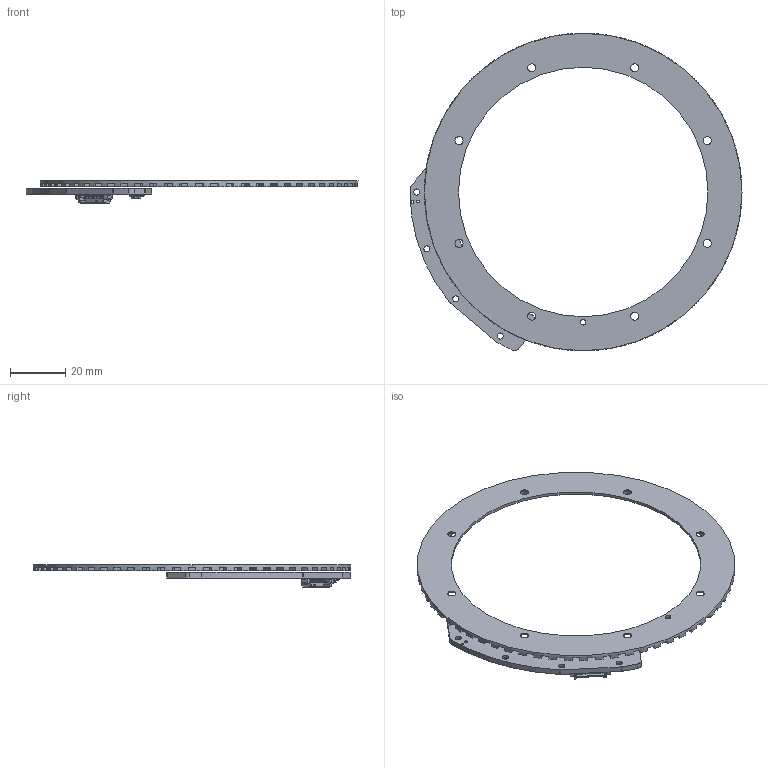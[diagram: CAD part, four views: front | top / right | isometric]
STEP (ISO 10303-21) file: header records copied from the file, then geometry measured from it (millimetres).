
FILE_DESCRIPTION((''),'2;1');
FILE_NAME('SAB115REV_1_8_ASM','2025-05-06T',('ol'),(''),'PRO/ENGINEER BY PARAMETRIC TECHNOLOGY CORPORATION, 2017170','PRO/ENGINEER BY PARAMETRIC TECHNOLOGY CORPORATION, 2017170','');
FILE_SCHEMA(('CONFIG_CONTROL_DESIGN'));
Products named in the file (72): BOARD_1_1_AF0; MANIFOLD_SOLID_BREP_72793_1_1; MANIFOLD_SOLID_BREP_72297_1_1; MANIFOLD_SOLID_BREP_71765_1_1; MANIFOLD_SOLID_BREP_71351_1_1; MANIFOLD_SOLID_BREP_70808_1_1; MANIFOLD_SOLID_BREP_69983_1_1; MANIFOLD_SOLID_BREP_69151_1_1; MANIFOLD_SOLID_BREP_68737_1_1; MANIFOLD_SOLID_BREP_68241_1_1; MANIFOLD_SOLID_BREP_67709_1_1; MANIFOLD_SOLID_BREP_67295_1_1; MANIFOLD_SOLID_BREP_66743_1_1; MANIFOLD_SOLID_BREP_66527_1_1; MANIFOLD_SOLID_BREP_48799_1_1; MANIFOLD_SOLID_BREP_47766_1_1; MANIFOLD_SOLID_BREP_46733_1_1; CN1_ASM_1_ASM_1_ASM; CN5_ASM_1_ASM_1_ASM; MANIFOLD_SOLID_BREP_191683_1_1; MANIFOLD_SOLID_BREP_191187_1_1; MANIFOLD_SOLID_BREP_190655_1_1; MANIFOLD_SOLID_BREP_190241_1_1; MANIFOLD_SOLID_BREP_189698_1_1; MANIFOLD_SOLID_BREP_188873_1_1; MANIFOLD_SOLID_BREP_188041_1_1; MANIFOLD_SOLID_BREP_187627_1_1; MANIFOLD_SOLID_BREP_187131_1_1; MANIFOLD_SOLID_BREP_186599_1_1; MANIFOLD_SOLID_BREP_186185_1_1; MANIFOLD_SOLID_BREP_185633_1_1; MANIFOLD_SOLID_BREP_185417_1_1; MANIFOLD_SOLID_BREP_185265_1_1; MANIFOLD_SOLID_BREP_185113_1_1; MANIFOLD_SOLID_BREP_184961_1_1; MANIFOLD_SOLID_BREP_184809_1_1; MANIFOLD_SOLID_BREP_184657_1_1; MANIFOLD_SOLID_BREP_184472_1_1; MANIFOLD_SOLID_BREP_184287_1_1; MANIFOLD_SOLID_BREP_184102_1_1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
Assembly tree (71 placements, depth 6):
  SAB115REV_1_8_ASM
    SAB115_REV_1_8_ASM_1_ASM_1_ASM
      PCB_ASM_1_ASM_1_AF0_ASM
        BOARD_1_1_AF0
        CN5_ASM_1_ASM_1_ASM
          CN1_ASM_1_ASM_1_ASM
            MANIFOLD_SOLID_BREP_72793_1_1
            MANIFOLD_SOLID_BREP_72297_1_1
            MANIFOLD_SOLID_BREP_71765_1_1
            MANIFOLD_SOLID_BREP_71351_1_1
            MANIFOLD_SOLID_BREP_70808_1_1
            MANIFOLD_SOLID_BREP_69983_1_1
            MANIFOLD_SOLID_BREP_69151_1_1
            MANIFOLD_SOLID_BREP_68737_1_1
            MANIFOLD_SOLID_BREP_68241_1_1
            MANIFOLD_SOLID_BREP_67709_1_1
            MANIFOLD_SOLID_BREP_67295_1_1
            MANIFOLD_SOLID_BREP_66743_1_1
            MANIFOLD_SOLID_BREP_66527_1_1
            MANIFOLD_SOLID_BREP_48799_1_1
            MANIFOLD_SOLID_BREP_47766_1_1
            MANIFOLD_SOLID_BREP_46733_1_1
        FPC5_ASM_1_ASM_1_ASM
          FPC1_ASM_1_ASM_1_ASM
            MANIFOLD_SOLID_BREP_191683_1_1
            MANIFOLD_SOLID_BREP_191187_1_1
            MANIFOLD_SOLID_BREP_190655_1_1
            MANIFOLD_SOLID_BREP_190241_1_1
            MANIFOLD_SOLID_BREP_189698_1_1
            MANIFOLD_SOLID_BREP_188873_1_1
            MANIFOLD_SOLID_BREP_188041_1_1
            MANIFOLD_SOLID_BREP_187627_1_1
            MANIFOLD_SOLID_BREP_187131_1_1
            MANIFOLD_SOLID_BREP_186599_1_1
            MANIFOLD_SOLID_BREP_186185_1_1
            MANIFOLD_SOLID_BREP_185633_1_1
            MANIFOLD_SOLID_BREP_185417_1_1
            MANIFOLD_SOLID_BREP_185265_1_1
            MANIFOLD_SOLID_BREP_185113_1_1
            MANIFOLD_SOLID_BREP_184961_1_1
            MANIFOLD_SOLID_BREP_184809_1_1
            MANIFOLD_SOLID_BREP_184657_1_1
            MANIFOLD_SOLID_BREP_184472_1_1
            MANIFOLD_SOLID_BREP_184287_1_1
            MANIFOLD_SOLID_BREP_184102_1_1
            MANIFOLD_SOLID_BREP_183917_1_1
            MANIFOLD_SOLID_BREP_183732_1_1
            MANIFOLD_SOLID_BREP_183582_1_1
            MANIFOLD_SOLID_BREP_183432_1_1
            MANIFOLD_SOLID_BREP_183282_1_1
            MANIFOLD_SOLID_BREP_183132_1_1
            MANIFOLD_SOLID_BREP_182982_1_1
            MANIFOLD_SOLID_BREP_182826_1_1
            MANIFOLD_SOLID_BREP_182670_1_1
            MANIFOLD_SOLID_BREP_182514_1_1
            MANIFOLD_SOLID_BREP_182358_1_1
            MANIFOLD_SOLID_BREP_182202_1_1
            MANIFOLD_SOLID_BREP_182052_1_1
            MANIFOLD_SOLID_BREP_181902_1_1
            MANIFOLD_SOLID_BREP_181752_1_1
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Bounding box: 119.79 x 114.6 x 8.25 mm (x, y, z)
Volume: 7819.1 mm3; surface area: 13356.3 mm2
Topology: 65 solids, 65 shells, 1773 faces, 4737 edges, 3119 vertices
Faces by surface type: plane 1205, cylinder 288, extrusion 250, cone 24, bspline 4, sphere 2
Entity records: 66421 total; most frequent: CARTESIAN_POINT 21271, ORIENTED_EDGE 9470, DIRECTION 8322, EDGE_CURVE 4735, VECTOR 3780, LINE 3530, VERTEX_POINT 3119, AXIS2_PLACEMENT_3D 2271
